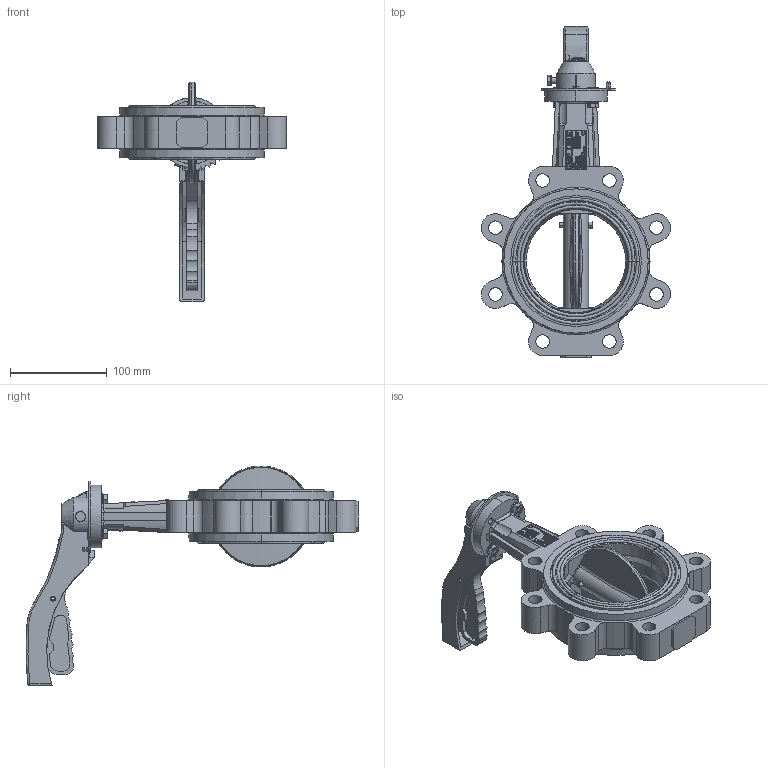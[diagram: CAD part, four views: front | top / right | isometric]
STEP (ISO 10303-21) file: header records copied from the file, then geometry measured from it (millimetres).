
FILE_DESCRIPTION (( 'STEP AP214' ), '1' );
FILE_NAME ('VPG464X-02XX0100VPG464X-02XX0100--.step', '2022-05-19T10:08:41', ( '' ), ( '' ), 'SwSTEP 2.0', 'SolidWorks 2020', '' );
FILE_SCHEMA (( 'AUTOMOTIVE_DESIGN' ));
Length unit declared in the file: millimetre
Products named in the file (1): VPG464X-02XX0100VPG464X-02XX0100--
Bounding box: 195.29 x 342.93 x 227.09 mm (x, y, z)
Surface area: 204127.2 mm2 (no closed solid volume)
Topology: 0 solids, 71 shells, 747 faces, 5274 edges, 4563 vertices
Faces by surface type: plane 395, cylinder 186, bspline 99, cone 62, torus 5
Entity records: 80198 total; most frequent: CARTESIAN_POINT 36397, ORIENTED_EDGE 6818, DIRECTION 5577, EDGE_CURVE 5270, VERTEX_POINT 4563, VECTOR 3295, LINE 3295, B_SPLINE_CURVE_WITH_KNOTS 1454
